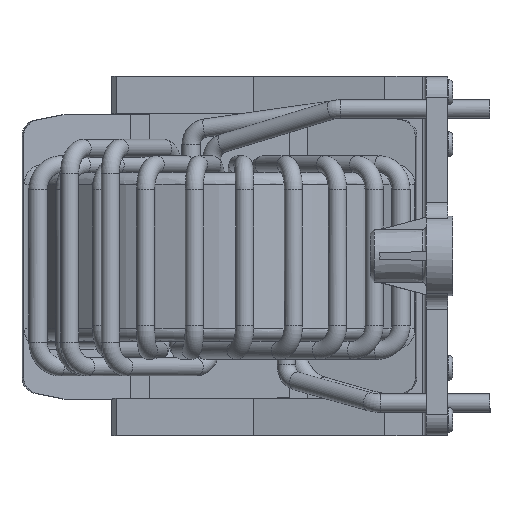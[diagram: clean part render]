
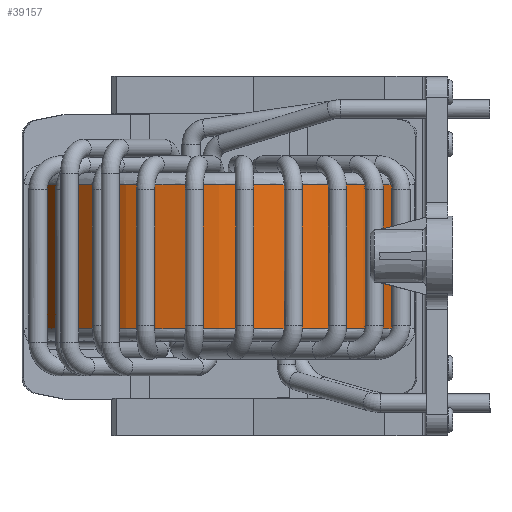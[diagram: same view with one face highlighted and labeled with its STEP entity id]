
A CAD part, front view. The second image highlights one B-rep face of the part: STEP entity #39157.
In plain terms, the highlighted cylindrical face has radius 23 mm (diameter 46 mm), a partial arc.
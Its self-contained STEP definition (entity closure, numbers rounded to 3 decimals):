
#19243=CARTESIAN_POINT('',(22.499,-3.775,1.4));
#19244=VERTEX_POINT('',#19243);
#19253=CARTESIAN_POINT('',(-22.499,-3.775,1.4));
#19254=VERTEX_POINT('',#19253);
#19255=CARTESIAN_POINT('',(0.,1.,1.4));
#19256=DIRECTION('',(0.0,0.0,-1.0));
#19257=DIRECTION('',(0.0,-1.0,0.0));
#19258=AXIS2_PLACEMENT_3D('',#19255,#19256,#19257);
#19259=CIRCLE('',#19258,23.);
#19260=EDGE_CURVE('',#19244,#19254,#19259,.T.);
#38896=CARTESIAN_POINT('',(22.499,-3.775,18.8));
#38897=VERTEX_POINT('',#38896);
#38905=CARTESIAN_POINT('',(22.499,-3.775,18.8));
#38906=DIRECTION('',(0.0,0.0,-1.0));
#38907=VECTOR('',#38906,17.4);
#38908=LINE('',#38905,#38907);
#38909=EDGE_CURVE('',#38897,#19244,#38908,.T.);
#39133=CARTESIAN_POINT('',(0.,1.,20.3));
#39134=DIRECTION('',(0.,0.,-1.0));
#39135=DIRECTION('',(0.0,-1.0,0.0));
#39136=AXIS2_PLACEMENT_3D('',#39133,#39134,#39135);
#39137=CYLINDRICAL_SURFACE('',#39136,23.);
#39138=ORIENTED_EDGE('',*,*,#38909,.F.);
#39139=CARTESIAN_POINT('',(-22.499,-3.775,18.8));
#39140=VERTEX_POINT('',#39139);
#39141=CARTESIAN_POINT('',(0.,1.,18.8));
#39142=DIRECTION('',(0.0,0.0,1.0));
#39143=DIRECTION('',(0.0,-1.0,0.0));
#39144=AXIS2_PLACEMENT_3D('',#39141,#39142,#39143);
#39145=CIRCLE('',#39144,23.);
#39146=EDGE_CURVE('',#39140,#38897,#39145,.T.);
#39147=ORIENTED_EDGE('',*,*,#39146,.F.);
#39148=CARTESIAN_POINT('',(-22.499,-3.775,1.4));
#39149=DIRECTION('',(0.0,0.0,1.0));
#39150=VECTOR('',#39149,17.4);
#39151=LINE('',#39148,#39150);
#39152=EDGE_CURVE('',#19254,#39140,#39151,.T.);
#39153=ORIENTED_EDGE('',*,*,#39152,.F.);
#39154=ORIENTED_EDGE('',*,*,#19260,.F.);
#39155=EDGE_LOOP('',(#39138,#39147,#39153,#39154));
#39156=FACE_OUTER_BOUND('',#39155,.T.);
#39157=ADVANCED_FACE('',(#39156),#39137,.T.);
